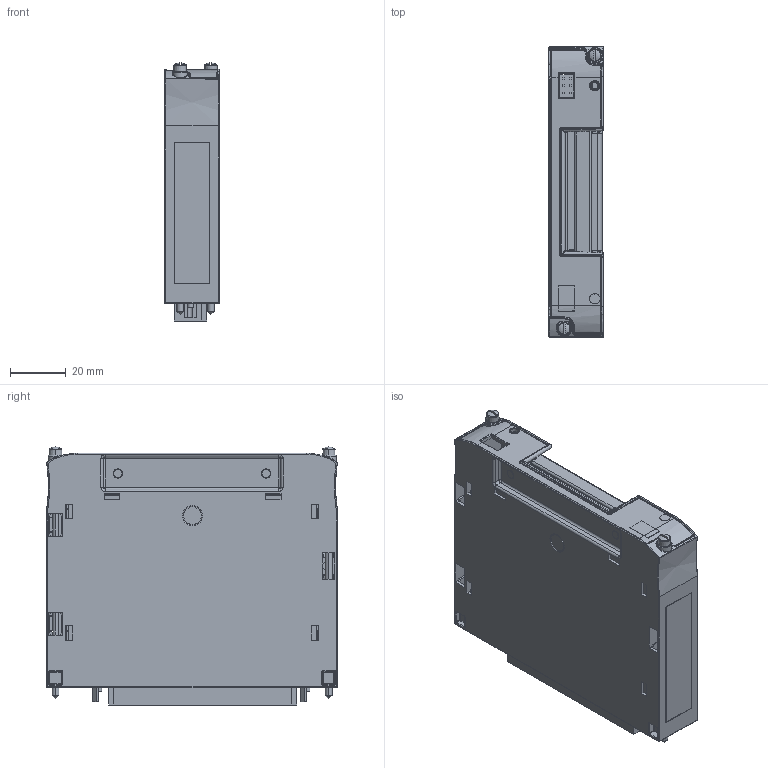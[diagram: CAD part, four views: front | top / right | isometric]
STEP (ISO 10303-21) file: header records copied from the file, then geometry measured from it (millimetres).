
FILE_DESCRIPTION((''),'2;1');
FILE_NAME('CD_TB-2627','2011-06-09T',('jjorden'),(''),'PRO/ENGINEER BY PARAMETRIC TECHNOLOGY CORPORATION, 2010230','PRO/ENGINEER BY PARAMETRIC TECHNOLOGY CORPORATION, 2010230','');
FILE_SCHEMA(('CONFIG_CONTROL_DESIGN'));
Products named in the file (1): CD_TB-2627
Bounding box: 19.53 x 104.64 x 92.77 mm (x, y, z)
Volume: 58073 mm3; surface area: 74550.9 mm2
Topology: 1 solids, 1 shells, 2584 faces, 6320 edges, 3816 vertices
Faces by surface type: plane 1380, cylinder 629, bspline 265, torus 128, sphere 118, cone 64
Entity records: 92998 total; most frequent: CARTESIAN_POINT 33853, ORIENTED_EDGE 12534, DIRECTION 11674, EDGE_CURVE 6267, VECTOR 4042, LINE 4042, VERTEX_POINT 3892, AXIS2_PLACEMENT_3D 3816
